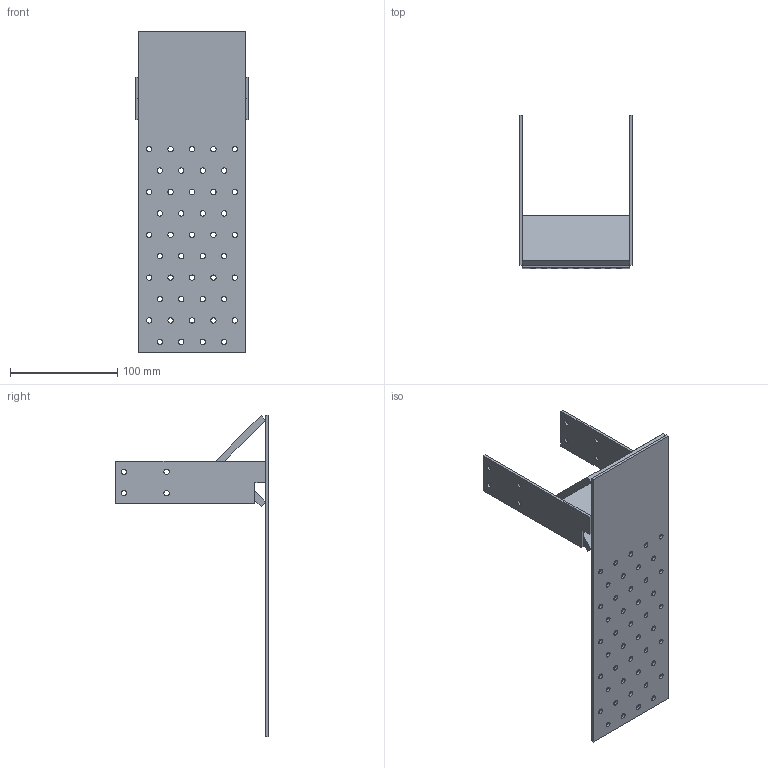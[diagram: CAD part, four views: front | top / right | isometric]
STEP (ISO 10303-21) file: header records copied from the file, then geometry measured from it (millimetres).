
FILE_DESCRIPTION (( 'STEP AP203' ), '1' );
FILE_NAME ('22102.STEP', '2021-05-21T06:01:54', ( '' ), ( '' ), 'SwSTEP 2.0', 'SolidWorks 2013', '' );
FILE_SCHEMA (( 'CONFIG_CONTROL_DESIGN' ));
Length unit declared in the file: millimetre
Products named in the file (4): STSF40X140; PLFH100; 22102; PLWESF100
Assembly tree (4 placements, depth 2):
  22102
    PLFH100
    PLWESF100
    STSF40X140  x2
Bounding box: 105 x 142.5 x 300 mm (x, y, z)
Volume: 167798.4 mm3; surface area: 110768 mm2
Topology: 4 solids, 4 shells, 136 faces, 384 edges, 256 vertices
Faces by surface type: cylinder 106, plane 30
Entity records: 4660 total; most frequent: DIRECTION 790, CARTESIAN_POINT 696, ORIENTED_EDGE 684, EDGE_CURVE 342, AXIS2_PLACEMENT_3D 322, VERTEX_POINT 228, EDGE_LOOP 218, CIRCLE 196
